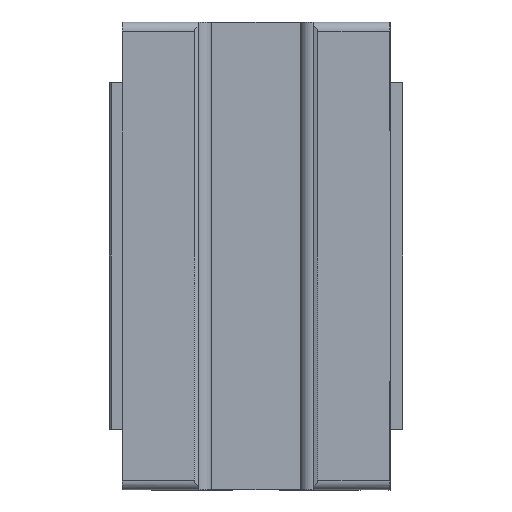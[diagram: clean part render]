
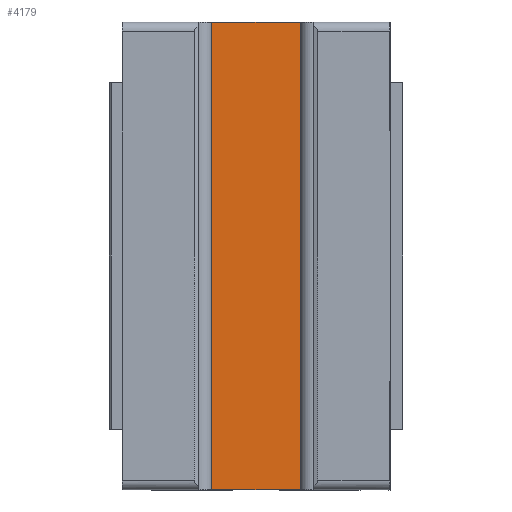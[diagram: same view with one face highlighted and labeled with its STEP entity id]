
A CAD part, front view. The second image highlights one B-rep face of the part: STEP entity #4179.
In plain terms, the highlighted planar face has unit normal (0, -1, 0).
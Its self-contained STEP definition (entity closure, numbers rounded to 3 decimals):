
#317 = EDGE_CURVE ( 'NONE', #319, #346, #7758, .T. ) ;
#319 = VERTEX_POINT ( 'NONE', #7725 ) ;
#346 = VERTEX_POINT ( 'NONE', #7746 ) ;
#1539 = VERTEX_POINT ( 'NONE', #5737 ) ;
#1657 = EDGE_CURVE ( 'NONE', #1539, #1658, #5996, .T. ) ;
#1658 = VERTEX_POINT ( 'NONE', #5993 ) ;
#4077 = EDGE_LOOP ( 'NONE', ( #4078, #4182, #4159, #4160 ) ) ;
#4078 = ORIENTED_EDGE ( 'NONE', *, *, #4145, .T. ) ;
#4145 = EDGE_CURVE ( 'NONE', #1539, #319, #4801, .T. ) ;
#4159 = ORIENTED_EDGE ( 'NONE', *, *, #4165, .F. ) ;
#4160 = ORIENTED_EDGE ( 'NONE', *, *, #1657, .F. ) ;
#4165 = EDGE_CURVE ( 'NONE', #1658, #346, #4795, .T. ) ;
#4179 = ADVANCED_FACE ( 'NONE', ( #4847 ), #4844, .F. ) ;
#4182 = ORIENTED_EDGE ( 'NONE', *, *, #317, .T. ) ;
#4783 = DIRECTION ( 'NONE',  ( 0., 0., 1. ) ) ;
#4784 = VECTOR ( 'NONE', #4783, 1000. ) ;
#4795 = LINE ( 'NONE', #4865, #4863 ) ;
#4800 = CARTESIAN_POINT ( 'NONE',  ( 7.256, 7.799, -9.1 ) ) ;
#4801 = LINE ( 'NONE', #4800, #4784 ) ;
#4841 = CARTESIAN_POINT ( 'NONE',  ( 7.256, 7.799, -9.1 ) ) ;
#4843 = AXIS2_PLACEMENT_3D ( 'NONE', #4841, #4920, #4919 ) ;
#4844 = PLANE ( 'NONE',  #4843 ) ;
#4847 = FACE_OUTER_BOUND ( 'NONE', #4077, .T. ) ;
#4861 = DIRECTION ( 'NONE',  ( 0., 0., 1. ) ) ;
#4863 = VECTOR ( 'NONE', #4861, 1000. ) ;
#4865 = CARTESIAN_POINT ( 'NONE',  ( -7.254, 7.799, -9.1 ) ) ;
#4919 = DIRECTION ( 'NONE',  ( -1., 0., 0. ) ) ;
#4920 = DIRECTION ( 'NONE',  ( 0., 1., 0. ) ) ;
#5737 = CARTESIAN_POINT ( 'NONE',  ( 7.256, 7.799, -9.05 ) ) ;
#5951 = DIRECTION ( 'NONE',  ( -1., 0., 0. ) ) ;
#5960 = VECTOR ( 'NONE', #5951, 1000. ) ;
#5993 = CARTESIAN_POINT ( 'NONE',  ( -7.254, 7.799, -9.05 ) ) ;
#5996 = LINE ( 'NONE', #6008, #5960 ) ;
#6008 = CARTESIAN_POINT ( 'NONE',  ( -20.1, 7.799, -9.05 ) ) ;
#7725 = CARTESIAN_POINT ( 'NONE',  ( 7.256, 7.799, 61.05 ) ) ;
#7726 = DIRECTION ( 'NONE',  ( -1., 0., 0. ) ) ;
#7737 = VECTOR ( 'NONE', #7726, 1000. ) ;
#7738 = CARTESIAN_POINT ( 'NONE',  ( 7.256, 7.799, 61.05 ) ) ;
#7746 = CARTESIAN_POINT ( 'NONE',  ( -7.254, 7.799, 61.05 ) ) ;
#7758 = LINE ( 'NONE', #7738, #7737 ) ;
